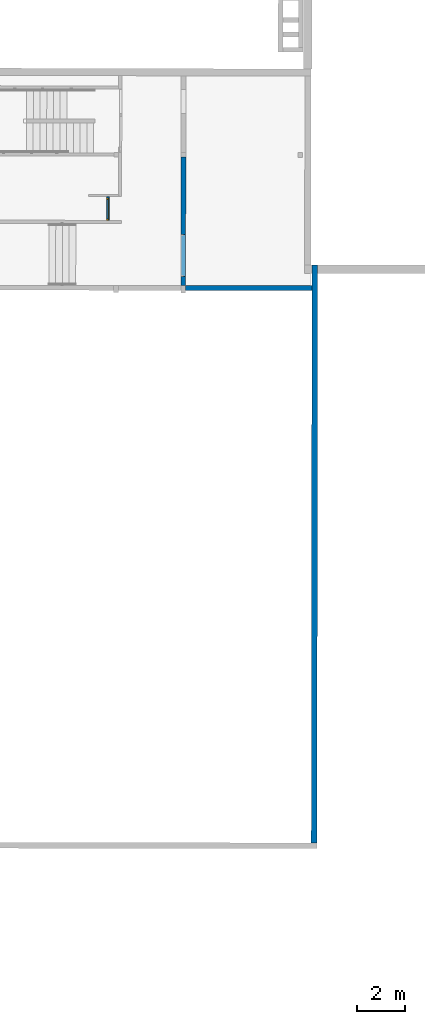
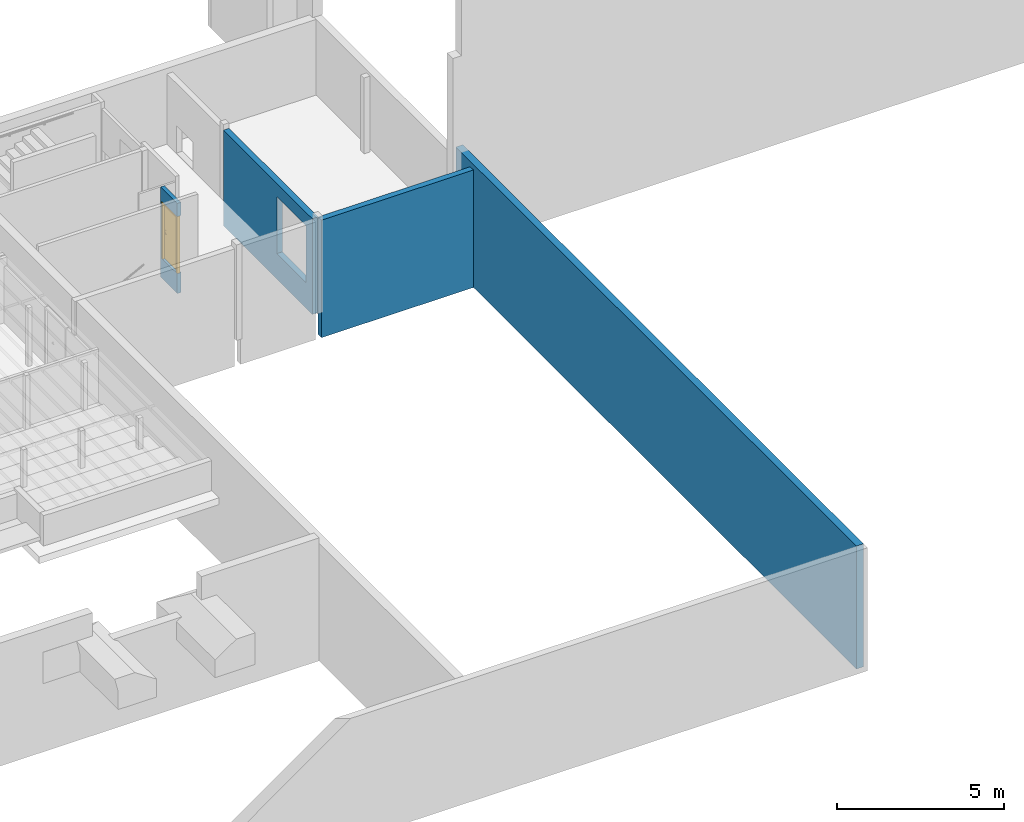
# One storey, part 4 of 24: 4 walls, 1 door, 2 openings.
"""IFC2X3 building model written with IfcOpenShell, lengths in metres."""

from ifc_helpers import new_model, entity, si_unit, converted_unit, derived_unit, direction, frame, frame_2d, origin, place, context, subcontext, project, spatial, rectangle, extrude, faceted_brep, source, transform, mapped, material, material_list, layer, layer_set, layer_usage, type_object, type_shapes, element, fill, save


model = new_model("IFC2X3")

# Units and contexts
model_context = context("Model", 3, precision=1e-05, world=origin(), true_north=direction((6.123233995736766e-17, 1.0)))
body_context = subcontext(model_context, "Body", "Model", "MODEL_VIEW")
ifc_project = project(units=[si_unit("LENGTHUNIT", "METRE"), si_unit("AREAUNIT", "SQUARE_METRE"), converted_unit("PLANEANGLEUNIT", "DEGREE", entity("IfcPlaneAngleMeasure", 0.017453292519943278), si_unit("PLANEANGLEUNIT", "RADIAN"), dimensions=[0, 0, 0, 0, 0, 0, 0]), derived_unit("THERMALTRANSMITTANCEUNIT", [(si_unit("MASSUNIT", "GRAM", prefix="KILO"), 1), (si_unit("THERMODYNAMICTEMPERATUREUNIT", "KELVIN"), -1), (si_unit("TIMEUNIT", "SECOND"), -3)])], contexts=[model_context])

# Site, building, storey
site_placement = place(None, frame((1253.6752467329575, 2072.143113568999, 91.49999999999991), z_axis=(0.0, 0.0, 1.0), x_axis=(0.7237211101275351, 0.6900925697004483, 0.0)))
site = spatial("IfcSite", under=ifc_project, at=site_placement, Name="Surface", CompositionType="ELEMENT")
building_placement = place(site_placement, origin())
building = spatial("IfcBuilding", under=site, at=building_placement, CompositionType="ELEMENT")
storey_placement = place(building_placement, frame((0.0, 0.0, -7.049999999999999)))
storey = spatial("IfcBuildingStorey", under=building, at=storey_placement, Name="R-1", CompositionType="ELEMENT", Elevation=-7.049999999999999)

# Wall, opening, door
ifc_material_1 = material(Name="OMD_Béton blanc")
ifc_layer_1 = layer(ifc_material_1, 0.12999999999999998)
ifc_layer_set_1 = layer_set([ifc_layer_1], Name="Mur de base:MUR 13")
ifc_layer_usage_1 = layer_usage(ifc_layer_set_1, "AXIS2", "NEGATIVE", 0.06499999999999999)
wall_type_1 = type_object("IfcWallType", Name="Mur de base:MUR 13", PredefinedType="STANDARD", material=ifc_layer_set_1)
wall_1_placement = place(storey_placement, frame((191.0608415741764, -4.773450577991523, 0.0), z_axis=(0.0, 0.0, 1.0), x_axis=(0.6909838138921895, 0.7228702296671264, 0.0)))
wall_1 = element("IfcWallStandardCase", 1, at=wall_1_placement, inside=storey, type_object=wall_type_1, material=ifc_layer_usage_1, Name="Mur de base:MUR 13", ObjectType="Mur de base:MUR 13", context=body_context, shape_type="SweptSolid", body=[
    extrude(rectangle(XDim=0.9999999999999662, YDim=0.1299999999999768, at=frame_2d((0.4999999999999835, 8.881784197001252e-16), x_axis=(-1.0, 0.0))), origin(), (0.0, 0.0, 1.0), 3.2999999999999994),
])
opening_1_placement = place(wall_1_placement, frame((0.934999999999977, 0.06499999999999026, 0.7299999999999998)))
opening_1 = element("IfcOpeningElement", 2, at=opening_1_placement, cuts=wall_1, Name="OMD_Porte 1V tunnel:80x204:1", ObjectType="Opening", context=body_context, shape_type="SweptSolid", body=[
    extrude(rectangle(XDim=2.0850000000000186, YDim=0.9349999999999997, at=frame_2d((1.0425000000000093, 0.46749999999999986), x_axis=(1.0, 0.0))), frame((0.0, 0.0, 0.0), z_axis=(0.0, -1.0, 0.0), x_axis=(0.0, 0.0, 1.0)), (0.0, 0.0, 1.0), 0.12999999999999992),
])
ifc_material_2 = material(Name="Porte - Poignée")
ifc_material_3 = material(Name="OMD_Peinture mur")
ifc_material_4 = material(Name="OMD_Bois")
ifc_material_list = material_list([ifc_material_2, ifc_material_3, ifc_material_4])
door_style = type_object("IfcDoorStyle", Name="OMD_Porte 1V tunnel:80x204", ConstructionType="NOTDEFINED", OperationType="NOTDEFINED", ParameterTakesPrecedence=False, Sizeable=False, material=ifc_material_list)
shared_shape = source(origin(), body_context, "Body", "Brep", [
    faceted_brep([(0.8220252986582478, 0.06500000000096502, 1.0077804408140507), (0.8179747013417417, 0.06500000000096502, 1.007780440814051), (0.8139999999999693, 0.06500000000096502, 1.00699999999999), (0.8139999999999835, 0.06500000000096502, 0.9930000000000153), (0.8179747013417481, 0.06500000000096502, 0.9922195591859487), (0.8220252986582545, 0.06500000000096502, 0.9922195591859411), (0.8260000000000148, 0.06500000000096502, 0.9929999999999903), (0.826000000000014, 0.06500000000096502, 1.006999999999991), (0.8139999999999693, 0.08748520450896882, 1.00699999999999), (0.8139999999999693, 0.08748520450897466, 0.9930000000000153), (0.8179747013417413, 0.08913157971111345, 1.007780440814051), (0.8220252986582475, 0.09080939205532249, 1.0077804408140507), (0.8058389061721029, 0.10699578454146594, 1.0077804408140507), (0.8041610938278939, 0.10294518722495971, 1.007780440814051), (0.7207931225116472, 0.10294518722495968, 1.0077804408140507), (0.7191153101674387, 0.10699578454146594, 1.0077804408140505), (0.7114510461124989, 0.09933152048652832, 1.0077804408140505), (0.714315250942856, 0.09646731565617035, 1.0077804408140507), (0.8260000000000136, 0.09245576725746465, 1.006999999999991), (0.8260000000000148, 0.09245576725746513, 0.9929999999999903), (0.8220252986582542, 0.0908093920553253, 0.9922195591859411), (0.8179747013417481, 0.08913157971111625, 0.9922195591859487), (0.8041610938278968, 0.10294518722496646, 0.9922195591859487), (0.8058389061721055, 0.1069957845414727, 0.9922195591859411), (0.7191153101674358, 0.10699578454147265, 0.9922195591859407), (0.7207931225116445, 0.10294518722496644, 0.9922195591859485), (0.7143152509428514, 0.09646731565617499, 0.9922195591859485), (0.7114510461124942, 0.09933152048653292, 0.9922195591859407), (0.8025147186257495, 0.09897048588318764, 1.00699999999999), (0.8025147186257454, 0.09897048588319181, 0.9930000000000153), (0.8074852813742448, 0.11097048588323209, 1.006999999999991), (0.8074852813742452, 0.11097048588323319, 0.9929999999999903), (0.7624771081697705, 0.09897048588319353, 1.0069999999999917), (0.7224394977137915, 0.09897048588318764, 1.0069999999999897), (0.7224394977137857, 0.09897048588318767, 0.9930000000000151), (0.7624771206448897, 0.09897048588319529, 0.9930000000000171), (0.7624771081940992, 0.10512492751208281, 1.0078781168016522), (0.7573994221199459, 0.1109704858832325, 1.0069999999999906), (0.7174689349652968, 0.11097048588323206, 1.0069999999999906), (0.7675547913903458, 0.11097048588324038, 0.9929999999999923), (0.7174689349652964, 0.11097048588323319, 0.99299999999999), (0.762477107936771, 0.10512492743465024, 0.9921218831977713), (0.7086405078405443, 0.10214205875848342, 1.0069999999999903), (0.7086405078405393, 0.10214205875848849, 0.9929999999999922), (0.7171257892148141, 0.09365677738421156, 0.9930000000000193), (0.71712578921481, 0.09365677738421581, 1.0069999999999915)], [[[0, 1, 2, 3, 4, 5, 6, 7]], [[8, 9, 3, 2]], [[1, 10, 8, 2]], [[1, 0, 11, 12, 13, 10]], [[14, 15, 16, 17]], [[7, 18, 11, 0]], [[18, 7, 6, 19]], [[6, 5, 20, 19]], [[5, 4, 21, 22, 23, 20]], [[24, 25, 26, 27]], [[4, 3, 9, 21]], [[28, 29, 9, 8]], [[8, 10, 13, 28]], [[18, 30, 12, 11]], [[31, 30, 18, 19]], [[19, 20, 23, 31]], [[21, 9, 29, 22]], [[29, 28, 32, 33, 34, 35]], [[36, 32, 13]], [[37, 38, 15]], [[37, 12, 30]], [[36, 12, 37]], [[14, 32, 36]], [[36, 15, 14]], [[28, 13, 32]], [[32, 14, 33]], [[12, 36, 13]], [[15, 36, 37]], [[30, 31, 39, 40, 38, 37]], [[23, 41, 39]], [[24, 39, 41]], [[39, 31, 23]], [[39, 24, 40]], [[22, 35, 41]], [[41, 23, 22]], [[41, 35, 25]], [[35, 22, 29]], [[34, 25, 35]], [[24, 41, 25]], [[17, 16, 42, 43, 27, 26, 44, 45]], [[45, 44, 34, 33]], [[33, 14, 17, 45]], [[15, 38, 42, 16]], [[43, 42, 38, 40]], [[24, 27, 43, 40]], [[34, 44, 26, 25]]]),
    faceted_brep([(0.817974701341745, 0.02500000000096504, 1.007780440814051), (0.8220252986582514, 0.02500000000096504, 1.0077804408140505), (0.8260000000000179, 0.02500000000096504, 1.0069999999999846), (0.8260000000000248, 0.02500000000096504, 0.9929999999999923), (0.8220252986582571, 0.02500000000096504, 0.992219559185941), (0.817974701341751, 0.02500000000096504, 0.9922195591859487), (0.8139999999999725, 0.02500000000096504, 0.9930000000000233), (0.8139999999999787, 0.02500000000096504, 1.006999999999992), (0.8220252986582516, -0.0010045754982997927, 1.0077804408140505), (0.8260000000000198, -0.002650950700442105, 1.0069999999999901), (0.8179747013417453, 0.0006732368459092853, 1.007780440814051), (0.8042986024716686, -0.013002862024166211, 1.007780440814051), (0.8059764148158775, -0.017053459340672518, 1.0077804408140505), (0.7191424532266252, -0.017053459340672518, 1.0077804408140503), (0.7208202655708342, -0.013002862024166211, 1.0077804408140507), (0.714342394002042, -0.006524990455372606, 1.0077804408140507), (0.7114781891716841, -0.009389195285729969, 1.0077804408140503), (0.813999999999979, 0.002319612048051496, 1.006999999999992), (0.8139999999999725, 0.0023196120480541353, 0.9930000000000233), (0.817974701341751, 0.0006732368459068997, 0.9922195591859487), (0.8220252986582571, -0.0010045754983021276, 0.992219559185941), (0.8059764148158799, -0.017053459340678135, 0.992219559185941), (0.804298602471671, -0.013002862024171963, 0.9922195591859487), (0.7208202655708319, -0.013002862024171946, 0.9922195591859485), (0.7191424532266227, -0.017053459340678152, 0.9922195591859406), (0.71147818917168, -0.009389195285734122, 0.9922195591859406), (0.7143423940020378, -0.0065249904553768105, 0.9922195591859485), (0.8260000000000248, -0.0026509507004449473, 0.9929999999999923), (0.807622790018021, -0.021028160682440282, 1.0069999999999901), (0.8026522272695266, -0.009028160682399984, 1.006999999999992), (0.8026522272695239, -0.009028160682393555, 0.9930000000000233), (0.8076227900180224, -0.021028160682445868, 0.9929999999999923), (0.762559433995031, -0.01518280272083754, 1.0078781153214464), (0.7676923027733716, -0.021028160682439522, 1.0069999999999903), (0.7174960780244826, -0.021028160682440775, 1.00699999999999), (0.7625594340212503, -0.00902816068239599, 1.0069999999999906), (0.7224666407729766, -0.009028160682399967, 1.0069999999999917), (0.7625594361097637, -0.00902816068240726, 0.9930000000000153), (0.7224666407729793, -0.009028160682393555, 0.9930000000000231), (0.7625594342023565, -0.015182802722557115, 0.9921218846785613), (0.7574265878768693, -0.02102816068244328, 0.9929999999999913), (0.7174960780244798, -0.021028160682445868, 0.9929999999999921), (0.7171529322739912, -0.0037144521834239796, 0.9930000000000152), (0.7086676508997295, -0.012199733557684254, 0.9929999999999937), (0.7086676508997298, -0.012199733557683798, 1.0069999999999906), (0.717152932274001, -0.003714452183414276, 1.0069999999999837)], [[[0, 1, 2, 3, 4, 5, 6, 7]], [[2, 1, 8, 9]], [[1, 0, 10, 11, 12, 8]], [[13, 14, 15, 16]], [[0, 7, 17, 10]], [[18, 17, 7, 6]], [[5, 19, 18, 6]], [[5, 4, 20, 21, 22, 19]], [[23, 24, 25, 26]], [[3, 27, 20, 4]], [[9, 27, 3, 2]], [[9, 8, 12, 28]], [[10, 17, 29, 11]], [[30, 29, 17, 18]], [[18, 19, 22, 30]], [[20, 27, 31, 21]], [[28, 31, 27, 9]], [[12, 32, 33]], [[13, 33, 32]], [[33, 28, 12]], [[33, 13, 34]], [[11, 35, 32]], [[32, 12, 11]], [[32, 35, 14]], [[35, 11, 29]], [[36, 14, 35]], [[13, 32, 14]], [[29, 30, 37, 38, 36, 35]], [[39, 37, 22]], [[40, 41, 24]], [[40, 21, 31]], [[39, 21, 40]], [[23, 37, 39]], [[39, 24, 23]], [[30, 22, 37]], [[37, 23, 38]], [[21, 39, 22]], [[24, 39, 40]], [[31, 28, 33, 34, 41, 40]], [[42, 26, 25, 43, 44, 16, 15, 45]], [[13, 16, 44, 34]], [[36, 45, 15, 14]], [[42, 45, 36, 38]], [[38, 23, 26, 42]], [[24, 41, 43, 25]], [[44, 43, 41, 34]]]),
    faceted_brep([(0.8199999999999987, 0.06000000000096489, 0.8646410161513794), (0.8303527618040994, 0.06000000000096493, 0.866003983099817), (0.8399999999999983, 0.06000000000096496, 0.8700000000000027), (0.8399999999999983, 0.06000000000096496, 1.0800000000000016), (0.8303527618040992, 0.06000000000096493, 1.0839960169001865), (0.8199999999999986, 0.06000000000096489, 1.0853589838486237), (0.809647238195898, 0.06000000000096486, 1.0839960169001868), (0.7999999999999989, 0.06000000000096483, 1.0800000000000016), (0.7999999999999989, 0.06000000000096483, 0.8700000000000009), (0.8096472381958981, 0.06000000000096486, 0.8660039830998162), (0.8199999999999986, 0.0650000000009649, 1.0853589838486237), (0.8303527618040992, 0.06500000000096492, 1.0839960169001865), (0.8399999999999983, 0.06500000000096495, 1.0800000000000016), (0.8399999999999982, 0.06500000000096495, 0.8700000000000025), (0.8303527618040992, 0.06500000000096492, 0.866003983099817), (0.8199999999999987, 0.0650000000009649, 0.8646410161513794), (0.8096472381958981, 0.06500000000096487, 0.8660039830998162), (0.7999999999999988, 0.06500000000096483, 0.8700000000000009), (0.7999999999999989, 0.06500000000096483, 1.0800000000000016), (0.809647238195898, 0.06500000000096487, 1.0839960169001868)], [[[0, 1, 2, 3, 4, 5, 6, 7, 8, 9]], [[10, 11, 12, 13, 14, 15, 16, 17, 18, 19]], [[6, 19, 18, 7]], [[5, 10, 19, 6]], [[4, 11, 10, 5]], [[4, 3, 12, 11]], [[12, 3, 2, 13]], [[1, 14, 13, 2]], [[0, 15, 14, 1]], [[9, 16, 15, 0]], [[9, 8, 17, 16]], [[17, 8, 7, 18]]]),
    faceted_brep([(0.819999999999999, 0.025000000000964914, 0.8646410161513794), (0.8303527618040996, 0.025000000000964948, 0.8660039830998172), (0.8399999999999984, 0.02500000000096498, 0.8700000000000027), (0.8399999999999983, 0.02500000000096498, 1.0800000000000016), (0.8303527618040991, 0.025000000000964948, 1.0839960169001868), (0.8199999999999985, 0.025000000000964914, 1.0853589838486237), (0.8096472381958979, 0.02500000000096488, 1.0839960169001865), (0.7999999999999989, 0.025000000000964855, 1.0800000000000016), (0.7999999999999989, 0.025000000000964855, 0.8700000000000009), (0.8096472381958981, 0.02500000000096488, 0.8660039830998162), (0.8399999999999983, 0.030000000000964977, 1.0800000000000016), (0.8399999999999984, 0.030000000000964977, 0.8700000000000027), (0.8303527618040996, 0.030000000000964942, 0.8660039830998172), (0.819999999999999, 0.030000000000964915, 0.8646410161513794), (0.8096472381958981, 0.03000000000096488, 0.8660039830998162), (0.7999999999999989, 0.030000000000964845, 0.8700000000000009), (0.7999999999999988, 0.030000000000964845, 1.0800000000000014), (0.8096472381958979, 0.03000000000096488, 1.0839960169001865), (0.8199999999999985, 0.030000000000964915, 1.0853589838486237), (0.8303527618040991, 0.030000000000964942, 1.0839960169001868)], [[[0, 1, 2, 3, 4, 5, 6, 7, 8, 9]], [[10, 11, 12, 13, 14, 15, 16, 17, 18, 19]], [[1, 12, 11, 2]], [[0, 13, 12, 1]], [[9, 14, 13, 0]], [[9, 8, 15, 14]], [[15, 8, 7, 16]], [[6, 17, 16, 7]], [[5, 18, 17, 6]], [[4, 19, 18, 5]], [[4, 3, 10, 19]], [[10, 3, 2, 11]]]),
    faceted_brep([(0.89, 0.060000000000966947, 0.0), (0.89, 0.030000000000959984, 0.0), (0.04500000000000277, 0.030000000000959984, 0.0), (0.04500000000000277, 0.060000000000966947, 0.0), (0.89, 0.060000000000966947, 2.04), (0.89, 0.030000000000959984, 2.04), (0.04500000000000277, 0.030000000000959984, 2.04), (0.04500000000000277, 0.060000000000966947, 2.04)], [[[0, 1, 2, 3]], [[4, 5, 1, 0]], [[5, 6, 2, 1]], [[6, 7, 3, 2]], [[7, 4, 0, 3]], [[4, 7, 6, 5]]]),
    faceted_brep([(0.9350000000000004, 0.030000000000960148, 0.0), (0.8900000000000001, 0.0300000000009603, 0.0), (0.8900000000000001, 0.06000000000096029, 0.0), (0.8750000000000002, 0.06000000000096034, 0.0), (0.8750000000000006, 0.13000000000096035, 0.0), (0.9350000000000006, 0.13000000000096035, 0.0), (0.9350000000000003, 0.030000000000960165, 2.085), (0.0, 0.030000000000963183, 2.085), (0.0, 0.030000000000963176, 0.0), (0.04500000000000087, 0.030000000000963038, 0.0), (0.04500000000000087, 0.03000000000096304, 2.0399999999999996), (0.8900000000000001, 0.0300000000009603, 2.04), (0.8900000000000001, 0.06000000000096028, 2.04), (0.045000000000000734, 0.06000000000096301, 2.0399999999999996), (0.04500000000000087, 0.06000000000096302, 0.0), (0.060000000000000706, 0.06000000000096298, 0.0), (0.060000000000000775, 0.06000000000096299, 2.025), (0.8750000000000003, 0.06000000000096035, 2.0250000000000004), (0.8750000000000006, 0.13000000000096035, 2.0250000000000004), (0.060000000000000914, 0.13000000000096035, 2.025), (0.060000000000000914, 0.13000000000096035, 0.0), (0.0, 0.13000000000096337, 0.0), (0.0, 0.13000000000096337, 2.085), (0.9350000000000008, 0.13000000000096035, 2.0850000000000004)], [[[0, 1, 2, 3, 4, 5]], [[1, 0, 6, 7, 8, 9, 10, 11]], [[2, 1, 11, 12]], [[3, 2, 12, 13, 14, 15, 16, 17]], [[4, 3, 17, 18]], [[5, 4, 18, 19, 20, 21, 22, 23]], [[0, 5, 23, 6]], [[7, 22, 21, 8]], [[8, 21, 20, 15, 14, 9]], [[13, 10, 9, 14]], [[19, 16, 15, 20]], [[12, 11, 10, 13]], [[18, 17, 16, 19]], [[6, 23, 22, 7]]]),
])
type_shapes(door_style, [shared_shape])
door_placement = place(opening_1_placement, frame((-0.9349999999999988, -0.12999999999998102, 0.0)))
door = element("IfcDoor", 3, at=door_placement, inside=storey, type_object=door_style, material=ifc_material_list, Name="OMD_Porte 1V tunnel:80x204", ObjectType="OMD_Porte 1V tunnel:80x204", OverallHeight=2.0850000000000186, OverallWidth=0.9349999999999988, context=body_context, shape_type="MappedRepresentation", body=[
    mapped(shared_shape, transform((0.0, 0.0, 0.0), scale=1.0)),
])
fill(opening_1, door)

# Walls
ifc_layer_2 = layer(ifc_material_1, 0.24)
ifc_layer_set_2 = layer_set([ifc_layer_2], Name="Mur de base:MUR 24")
ifc_layer_usage_2 = layer_usage(ifc_layer_set_2, "AXIS2", "NEGATIVE", 0.12)
wall_type_2 = type_object("IfcWallType", Name="Mur de base:MUR 24", PredefinedType="STANDARD", material=ifc_layer_set_2)
wall_2_placement = place(storey_placement, frame((196.01546260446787, -12.072223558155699, -1.0), z_axis=(0.0, 0.0, 1.0), x_axis=(-0.6909838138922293, -0.7228702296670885, 0.0)))
element("IfcWallStandardCase", 4, at=wall_2_placement, inside=storey, type_object=wall_type_2, material=ifc_layer_usage_2, Name="Mur de base:MUR 24", ObjectType="Mur de base:MUR 24", context=body_context, shape_type="SweptSolid", body=[
    extrude(rectangle(XDim=24.072499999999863, YDim=0.24000000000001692, at=frame_2d((12.036249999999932, 6.00908212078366e-15), x_axis=(-1.0, 0.0))), origin(), (0.0, 0.0, 1.0), 4.499999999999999),
])
ifc_material_5 = material(Name="Béton - Béton coulé sur place")
ifc_layer_3 = layer(ifc_material_5, 0.2)
ifc_layer_set_3 = layer_set([ifc_layer_3], Name="Mur de base:MUR 20")
ifc_layer_usage_3 = layer_usage(ifc_layer_set_3, "AXIS2", "NEGATIVE", 0.1)
wall_type_3 = type_object("IfcWallType", Name="Mur de base:MUR 20", PredefinedType="STANDARD", material=ifc_layer_set_3)
wall_3_placement = place(storey_placement, frame((195.26364816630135, -12.685066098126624, -1.0), z_axis=(0.0, 0.0, 1.0), x_axis=(-0.7228702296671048, 0.6909838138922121, 0.0)))
element("IfcWallStandardCase", 5, at=wall_3_placement, inside=storey, type_object=wall_type_3, material=ifc_layer_usage_3, Name="Mur de base:MUR 20", ObjectType="Mur de base:MUR 20", context=body_context, shape_type="SweptSolid", body=[
    extrude(rectangle(XDim=5.259996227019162, YDim=0.20000000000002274, at=frame_2d((2.629998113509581, -6.938893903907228e-16), x_axis=(-1.0, 0.0))), origin(), (0.0, 0.0, 1.0), 4.299999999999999),
])

# Wall, opening
ifc_layer_usage_4 = layer_usage(ifc_layer_set_3, "AXIS2", "NEGATIVE", 0.1)
wall_4_placement = place(storey_placement, frame((195.15492824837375, -5.041752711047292, -0.2), z_axis=(0.0, 0.0, 1.0), x_axis=(-0.6909838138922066, -0.72287022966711, 0.0)))
wall_4 = element("IfcWallStandardCase", 6, at=wall_4_placement, inside=storey, type_object=wall_type_3, material=ifc_layer_usage_4, Name="Mur de base:MUR 20", ObjectType="Mur de base:MUR 20", context=body_context, shape_type="SweptSolid", body=[
    extrude(rectangle(XDim=5.35000000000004, YDim=0.19999999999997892, at=frame_2d((2.675000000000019, 2.706168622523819e-16), x_axis=(-1.0, 0.0))), origin(), (0.0, 0.0, 1.0), 3.499999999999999),
])
opening_2_placement = place(wall_4_placement, frame((4.96499999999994, 0.10000000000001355, 0.9299999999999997)))
element("IfcOpeningElement", 7, at=opening_2_placement, cuts=wall_4, Name="OMD_Porte 2V tunnel:double 160x204:1", ObjectType="Opening", context=body_context, shape_type="SweptSolid", body=[
    extrude(rectangle(XDim=2.085, YDim=1.749999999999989, at=frame_2d((1.0425, 0.8750000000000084), x_axis=(1.0, 0.0))), frame((0.0, 0.0, 0.0), z_axis=(0.0, -1.0, 0.0), x_axis=(0.0, 0.0, 1.0)), (0.0, 0.0, 1.0), 0.2),
])

save(model, "model.ifc")
